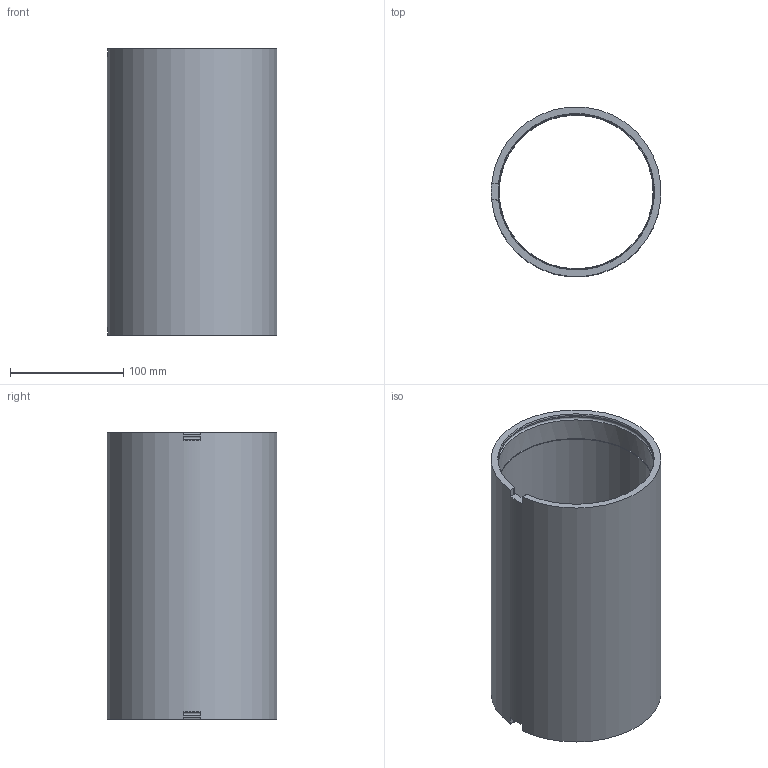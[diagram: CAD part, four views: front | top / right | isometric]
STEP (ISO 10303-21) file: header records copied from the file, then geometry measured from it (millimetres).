
FILE_DESCRIPTION(/* description */ (''),/* implementation_level */ '2;1');
FILE_NAME(/* name */ 'tube_150mm_alu_r1.step',/* time_stamp */ '2025-12-24T02:06:46+03:00',/* author */ (''),/* organization */ (''),/* preprocessor_version */ 'ST-DEVELOPER v20.1',/* originating_system */ 'Autodesk Translation Framework v14.21.0.0',/* authorisation */ '');
FILE_SCHEMA (('AUTOMOTIVE_DESIGN { 1 0 10303 214 3 1 1 }'));
Length unit declared in the file: millimetre
Products named in the file (1): 150mm tube
Bounding box: 149.72 x 149.5 x 253 mm (x, y, z)
Volume: 775411.4 mm3; surface area: 234469.8 mm2
Topology: 1 solids, 1 shells, 24 faces, 66 edges, 44 vertices
Faces by surface type: cylinder 10, plane 10, torus 2, cone 2
Full cylindrical faces by diameter (mm): 136 x1, 137.4 x2, 150 x1
Entity records: 929 total; most frequent: CARTESIAN_POINT 263, DIRECTION 138, ORIENTED_EDGE 132, EDGE_CURVE 66, AXIS2_PLACEMENT_3D 55, VERTEX_POINT 44, CIRCLE 30, LINE 28
